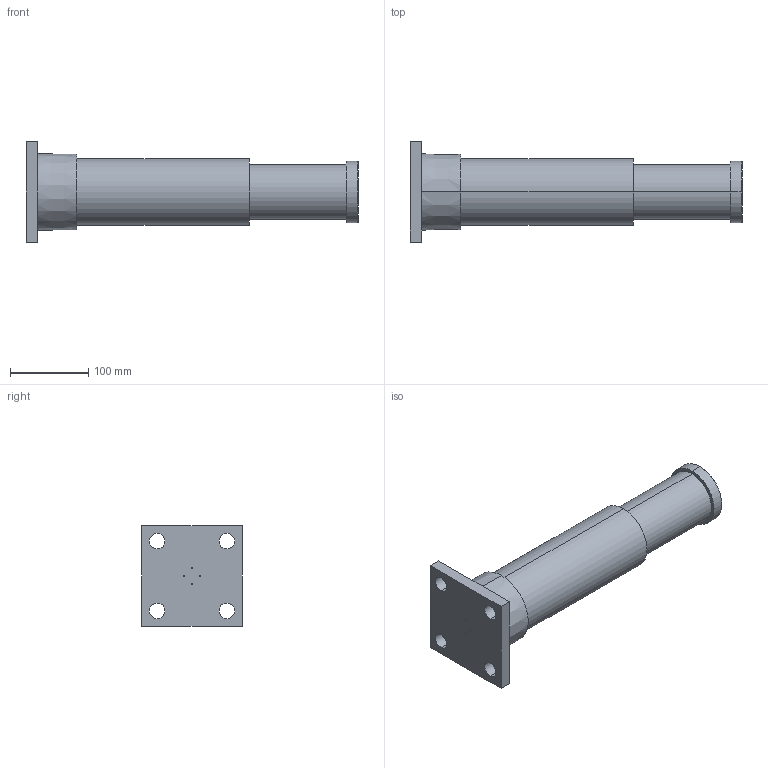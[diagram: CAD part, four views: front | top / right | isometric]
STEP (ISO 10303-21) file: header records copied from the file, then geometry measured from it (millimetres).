
FILE_DESCRIPTION (( 'STEP AP214' ), '1' );
FILE_NAME ('LDH80X100FR.STEP', '2019-01-21T04:54:49', ( 'user' ), ( 'Microsoft' ), 'SwSTEP 2.0', 'SolidWorks 2016', '' );
FILE_SCHEMA (( 'AUTOMOTIVE_DESIGN' ));
Length unit declared in the file: millimetre
Products named in the file (1): LDH80X100FR
Bounding box: 424 x 128 x 128 mm (x, y, z)
Volume: 2394254 mm3; surface area: 148734.4 mm2
Topology: 1 solids, 1 shells, 40 faces, 88 edges, 58 vertices
Faces by surface type: cylinder 22, plane 14, cone 4
Entity records: 1176 total; most frequent: DIRECTION 220, CARTESIAN_POINT 187, ORIENTED_EDGE 176, AXIS2_PLACEMENT_3D 91, EDGE_CURVE 88, VERTEX_POINT 58, EDGE_LOOP 56, CIRCLE 50
